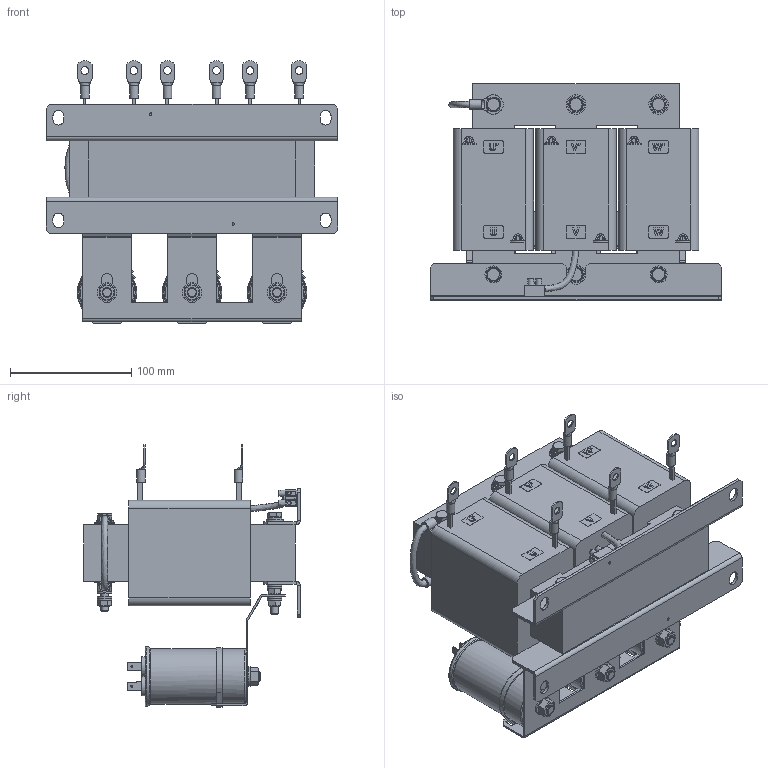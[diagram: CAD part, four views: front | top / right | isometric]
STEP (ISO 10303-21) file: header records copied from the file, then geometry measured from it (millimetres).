
FILE_DESCRIPTION(/* description */ (''),/* implementation_level */ '2;1');
FILE_NAME(/* name */ 'C:\Users\Erika.Jenzer\OneDrive - Schaffner EMV AG\BELLA\STEP FILES BELLA\FN\FN5420-38-92-E0XXT.stp',/* time_stamp */ '2021-07-12T08:36:33+02:00',/* author */ ('erika.jenzer'),/* organization */ (''),/* preprocessor_version */ 'ST-DEVELOPER v18.1',/* originating_system */ 'Autodesk Inventor 2020',/* authorisation */ '');
FILE_SCHEMA (('AUTOMOTIVE_DESIGN { 1 0 10303 214 3 1 1 }'));
Products named in the file (1): FN5420-38-92-E0XXT
Bounding box: 240 x 178 x 216.05 mm (x, y, z)
Volume: 2805806.5 mm3; surface area: 321614.4 mm2
Topology: 14 solids, 24 shells, 2158 faces, 5786 edges, 3861 vertices
Faces by surface type: plane 1516, cylinder 349, bspline 143, cone 121, torus 28, sphere 1
Full cylindrical faces by diameter (mm): 0.01 x2, 1.6 x12, 2.013 x2, 2.5 x1, 2.8 x5, 3.4 x4, 4.5 x6, 5.19 x2, 5.459 x2, 5.8 x2, 6 x21, 6.1 x7, 6.4 x22, 6.5 x2, 6.6 x10, 7 x6, 7.6 x5, 8 x7, 8.2 x2, 8.4 x3, 8.5 x4, 8.7 x6, 12 x14, 12.2 x6, 13 x1, 14 x5, 16 x7, 46 x3, 49 x3
Entity records: 73797 total; most frequent: CARTESIAN_POINT 18720, ORIENTED_EDGE 11552, DIRECTION 10179, EDGE_CURVE 5776, VERTEX_POINT 3861, LINE 3607, VECTOR 3607, AXIS2_PLACEMENT_3D 3286
